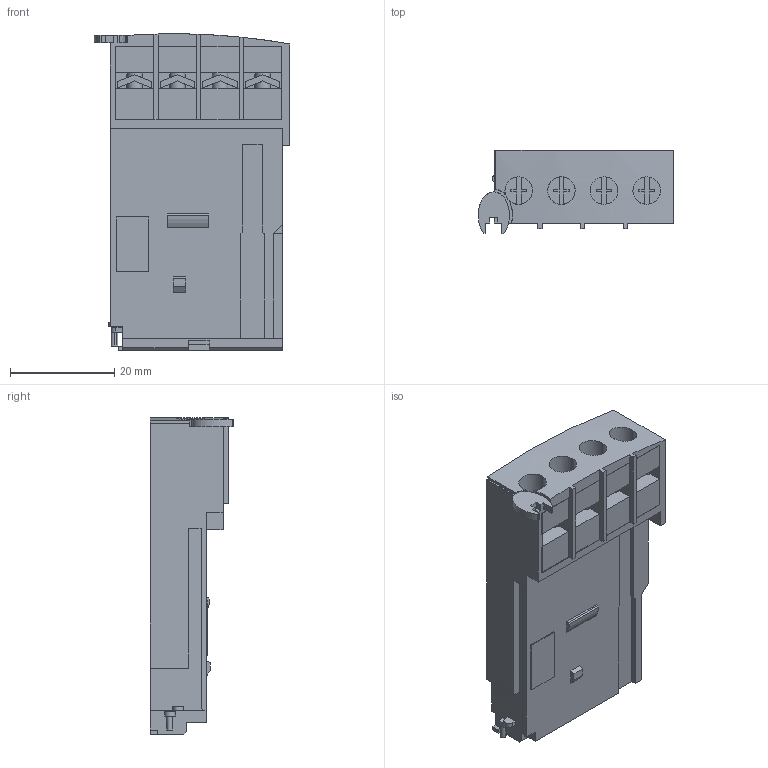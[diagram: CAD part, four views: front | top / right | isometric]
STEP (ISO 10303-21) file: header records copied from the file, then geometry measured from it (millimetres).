
FILE_DESCRIPTION((''),'2;1');
FILE_NAME('1668665849066_ASM','2022-11-17T11:47:48',('SESA540900'),('Schneider-Electric'),'CREO PARAMETRIC BY PTC INC, 2021284','CREO PARAMETRIC BY PTC INC, 2021284','');
FILE_SCHEMA(('AP242_MANAGED_MODEL_BASED_3D_ENGINEERING_MIM_LF { 1 0 10303 442 1 1 4 }'));
Length unit declared in the file: millimetre
Products named in the file (4): EMPTYNODE_1668665849131_ASM; LUA1C11; LUA1C11-3D_ASM; 1668665849066_ASM
Assembly tree (3 placements, depth 3):
  1668665849066_ASM
    EMPTYNODE_1668665849131_ASM
    LUA1C11-3D_ASM
      LUA1C11
Bounding box: 37.58 x 16.12 x 60.8 mm (x, y, z)
Volume: 21770.1 mm3; surface area: 8912.9 mm2
Topology: 1 solids, 1 shells, 274 faces, 791 edges, 522 vertices
Faces by surface type: plane 238, cylinder 32, extrusion 4
Entity records: 12925 total; most frequent: CARTESIAN_POINT 1984, ORIENTED_EDGE 1582, DIRECTION 1363, PRESENTATION_STYLE_ASSIGNMENT 892, STYLED_ITEM 792, CURVE_STYLE 791, EDGE_CURVE 791, VECTOR 679
